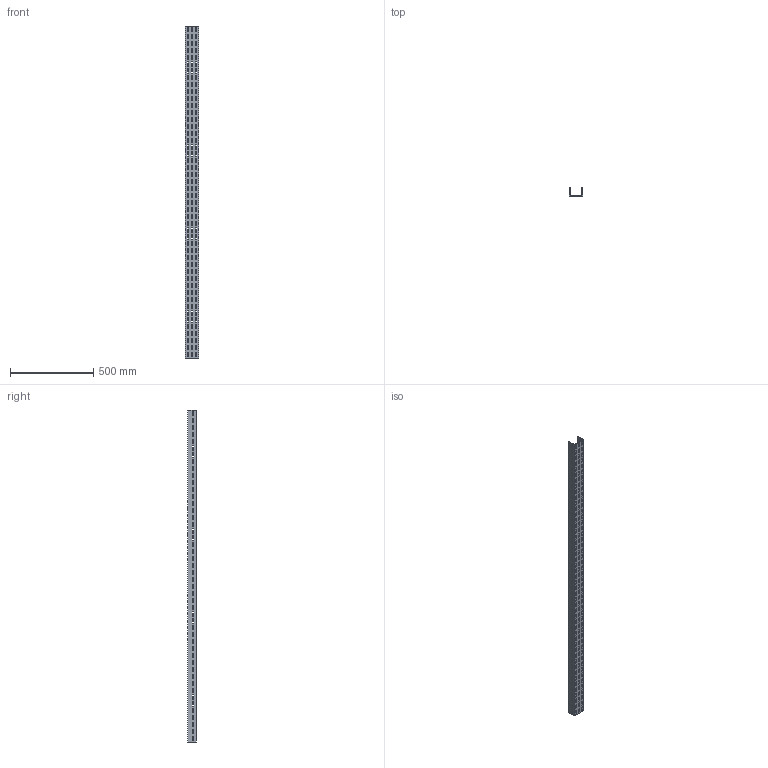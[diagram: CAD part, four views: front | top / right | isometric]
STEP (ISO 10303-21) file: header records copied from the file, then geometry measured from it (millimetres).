
FILE_DESCRIPTION (( 'STEP AP214' ), '1' );
FILE_NAME ('01F2B075.step', '2025-02-21T13:17:08', ( '' ), ( '' ), 'SwSTEP 2.0', 'SolidWorks 2023', '' );
FILE_SCHEMA (( 'AUTOMOTIVE_DESIGN' ));
Length unit declared in the file: millimetre
Products named in the file (1): 01F2B075
Bounding box: 79 x 52 x 2000 mm (x, y, z)
Volume: 1085000 mm3; surface area: 688992 mm2
Topology: 1 solids, 1 shells, 970 faces, 2904 edges, 1936 vertices
Faces by surface type: plane 970
Entity records: 32951 total; most frequent: CARTESIAN_POINT 5811, ORIENTED_EDGE 5808, DIRECTION 4846, LINE 2904, EDGE_CURVE 2904, VECTOR 2904, VERTEX_POINT 1936, EDGE_LOOP 1450
